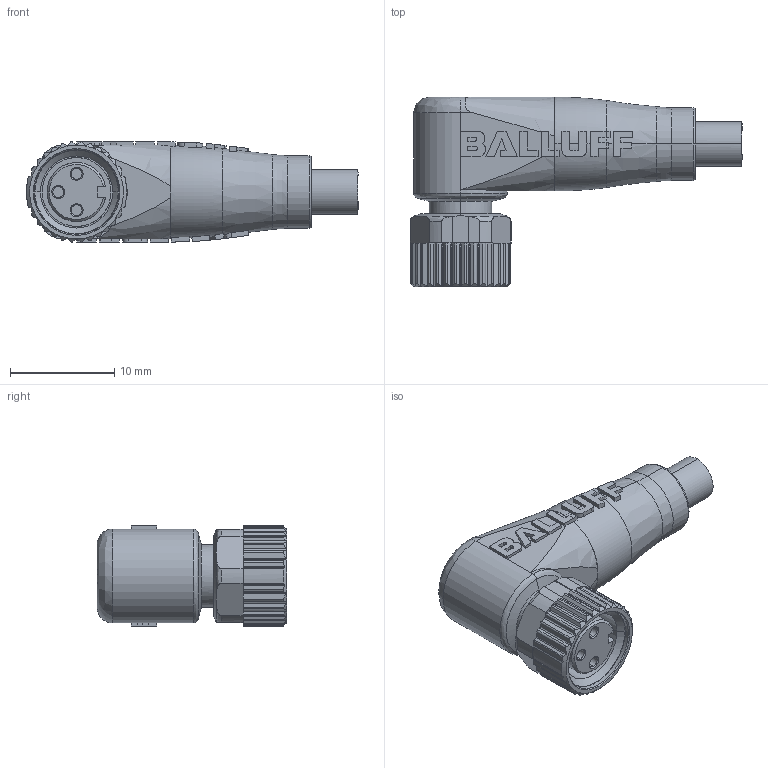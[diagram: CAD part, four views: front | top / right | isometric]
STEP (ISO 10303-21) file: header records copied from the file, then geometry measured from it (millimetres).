
FILE_DESCRIPTION (( 'STEP AP203' ), '1' );
FILE_NAME ('Asutec_15010020.STEP', '2026-02-17T11:20:31', ( '' ), ( '' ), 'SwSTEP 2.0', 'SolidWorks 2020', '' );
FILE_SCHEMA (( 'CONFIG_CONTROL_DESIGN' ));
Length unit declared in the file: millimetre
Products named in the file (1): Asutec_15010020
Bounding box: 31.85 x 18.2 x 9.66 mm (x, y, z)
Volume: 2156.4 mm3; surface area: 1622.1 mm2
Topology: 1 solids, 1 shells, 470 faces, 1282 edges, 833 vertices
Faces by surface type: plane 264, cylinder 158, cone 31, bspline 11, torus 6
Entity records: 16598 total; most frequent: CARTESIAN_POINT 5587, ORIENTED_EDGE 2564, DIRECTION 1839, EDGE_CURVE 1282, VERTEX_POINT 833, LINE 691, VECTOR 691, AXIS2_PLACEMENT_3D 574
